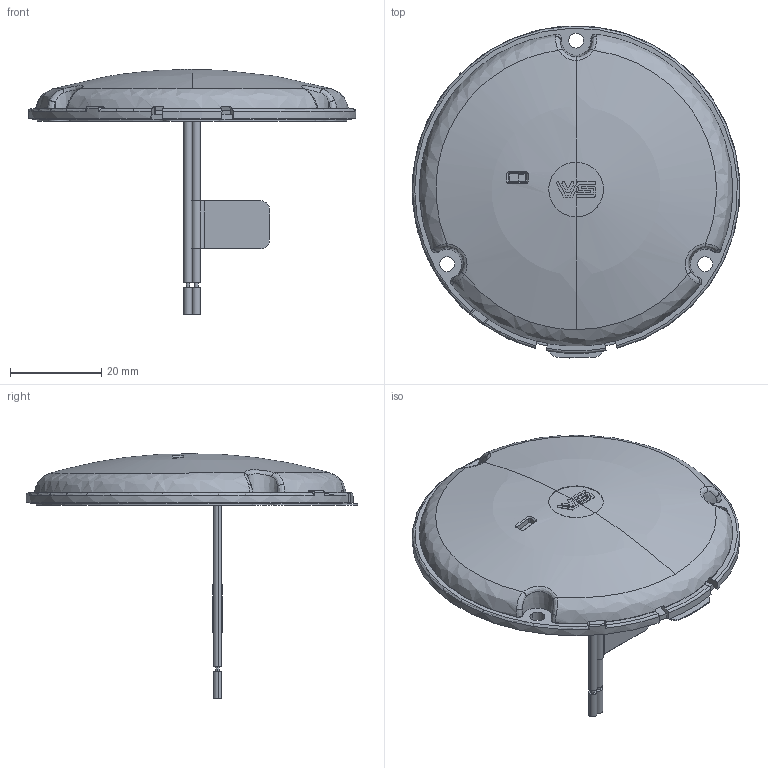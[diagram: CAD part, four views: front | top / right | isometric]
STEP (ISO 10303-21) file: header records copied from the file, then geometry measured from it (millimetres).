
FILE_DESCRIPTION(('Creo Elements/Direct Modeling STEP Export'),'2;1');
FILE_NAME('READYLINE_C07-E_REAR.stp','2022-06-14T14:30:59',(''),(''),'Creo Elements/Direct Modeling STEP processor for AP214 (Solid Model)','Creo Elements/Direct Modeling 20.0E 23-Apr-2019 (C) Parametric Technology GmbH','');
FILE_SCHEMA(('AUTOMOTIVE_DESIGN { 1 0 10303 214 1 1 1 1 }'));
Length unit declared in the file: millimetre
Products named in the file (9): DDM_sald_cavi_usc_lat; DIFFUSORE; CAVO_1; CAVO_2; ETICHETTA.1; 70C_PCB-11; cablaggi_usc_post; thermal_pad_LR42W; READYLINE_C07_REAR
Assembly tree (8 placements, depth 3):
  READYLINE_C07_REAR
    thermal_pad_LR42W
    cablaggi_usc_post
      70C_PCB-11
      ETICHETTA.1
      CAVO_2
      CAVO_1
    DIFFUSORE
    DDM_sald_cavi_usc_lat
Bounding box: 71.83 x 72.9 x 53.87 mm (x, y, z)
Volume: 12670.5 mm3; surface area: 26364.8 mm2
Topology: 6 solids, 8 shells, 720 faces, 1788 edges, 1152 vertices
Faces by surface type: cylinder 333, plane 264, bspline 71, cone 24, sphere 18, torus 8, extrusion 2
Entity records: 27946 total; most frequent: CARTESIAN_POINT 11373, ORIENTED_EDGE 3524, DIRECTION 3018, EDGE_CURVE 1762, VERTEX_POINT 1152, AXIS2_PLACEMENT_3D 1147, EDGE_LOOP 840, VECTOR 724
